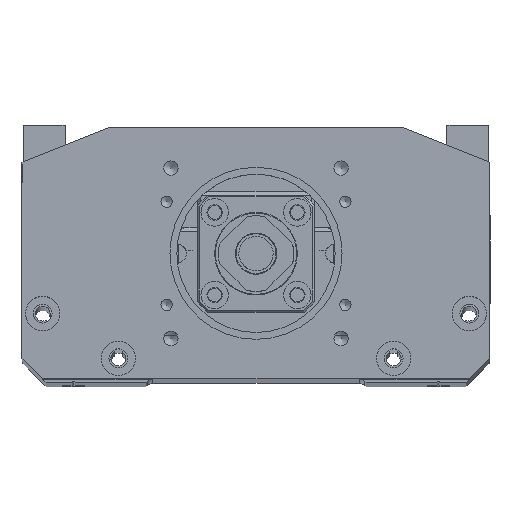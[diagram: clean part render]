
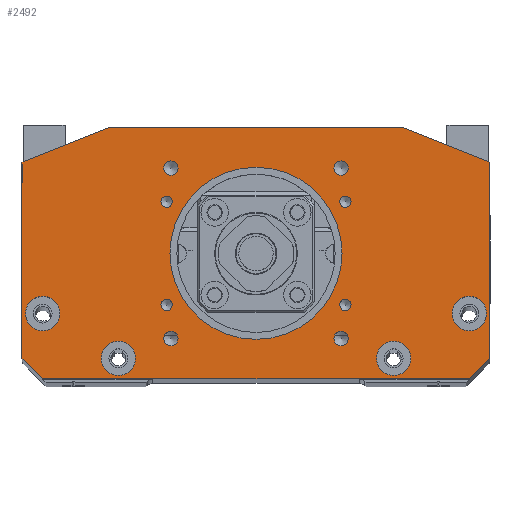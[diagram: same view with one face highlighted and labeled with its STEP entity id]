
A CAD part, top view. The second image highlights one B-rep face of the part: STEP entity #2492.
In plain terms, the highlighted planar face has unit normal (0, 0, 1).
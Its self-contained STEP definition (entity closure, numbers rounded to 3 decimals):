
#422=PLANE('',#15078);
#867=FACE_BOUND('',#4331,.T.);
#868=FACE_BOUND('',#4332,.T.);
#869=FACE_BOUND('',#4333,.T.);
#870=FACE_BOUND('',#4334,.T.);
#871=FACE_BOUND('',#4335,.T.);
#872=FACE_BOUND('',#4336,.T.);
#873=FACE_BOUND('',#4337,.T.);
#874=FACE_BOUND('',#4338,.T.);
#875=FACE_BOUND('',#4339,.T.);
#876=FACE_BOUND('',#4340,.T.);
#877=FACE_BOUND('',#4341,.T.);
#878=FACE_BOUND('',#4342,.T.);
#879=FACE_BOUND('',#4343,.T.);
#880=FACE_BOUND('',#4344,.T.);
#1786=CIRCLE('',#15065,1.65);
#1787=CIRCLE('',#15066,1.65);
#1788=CIRCLE('',#15067,1.65);
#1789=CIRCLE('',#15068,1.65);
#1790=CIRCLE('',#15069,2.1);
#1791=CIRCLE('',#15070,2.1);
#1792=CIRCLE('',#15071,2.1);
#1793=CIRCLE('',#15072,2.1);
#1794=CIRCLE('',#15073,25.);
#1795=CIRCLE('',#15074,5.);
#1796=CIRCLE('',#15075,5.);
#1797=CIRCLE('',#15076,5.);
#1798=CIRCLE('',#15077,5.);
#2492=ADVANCED_FACE('9',(#867,#868,#869,#870,#871,#872,#873,#874,#875,#876,
#877,#878,#879,#880),#422,.T.);
#4331=EDGE_LOOP('',(#7149));
#4332=EDGE_LOOP('',(#7150));
#4333=EDGE_LOOP('',(#7151));
#4334=EDGE_LOOP('',(#7152));
#4335=EDGE_LOOP('',(#7153));
#4336=EDGE_LOOP('',(#7154));
#4337=EDGE_LOOP('',(#7155));
#4338=EDGE_LOOP('',(#7156));
#4339=EDGE_LOOP('',(#7157));
#4340=EDGE_LOOP('',(#7158));
#4341=EDGE_LOOP('',(#7159));
#4342=EDGE_LOOP('',(#7160));
#4343=EDGE_LOOP('',(#7161));
#4344=EDGE_LOOP('',(#7162,#7163,#7164,#7165,#7166,#7167,#7168,#7169));
#7149=ORIENTED_EDGE('',*,*,#11610,.F.);
#7150=ORIENTED_EDGE('',*,*,#11611,.F.);
#7151=ORIENTED_EDGE('',*,*,#11612,.F.);
#7152=ORIENTED_EDGE('',*,*,#11613,.F.);
#7153=ORIENTED_EDGE('',*,*,#11614,.F.);
#7154=ORIENTED_EDGE('',*,*,#11615,.F.);
#7155=ORIENTED_EDGE('',*,*,#11616,.F.);
#7156=ORIENTED_EDGE('',*,*,#11617,.F.);
#7157=ORIENTED_EDGE('',*,*,#11618,.F.);
#7158=ORIENTED_EDGE('',*,*,#11619,.F.);
#7159=ORIENTED_EDGE('',*,*,#11620,.F.);
#7160=ORIENTED_EDGE('',*,*,#11621,.F.);
#7161=ORIENTED_EDGE('',*,*,#11622,.F.);
#7162=ORIENTED_EDGE('',*,*,#10731,.F.);
#7163=ORIENTED_EDGE('',*,*,#11580,.T.);
#7164=ORIENTED_EDGE('',*,*,#11623,.F.);
#7165=ORIENTED_EDGE('',*,*,#11583,.T.);
#7166=ORIENTED_EDGE('',*,*,#10650,.F.);
#7167=ORIENTED_EDGE('',*,*,#10691,.T.);
#7168=ORIENTED_EDGE('',*,*,#10706,.F.);
#7169=ORIENTED_EDGE('',*,*,#10720,.T.);
#9228=VERTEX_POINT('',#20829);
#9229=VERTEX_POINT('',#20831);
#9256=VERTEX_POINT('',#20907);
#9266=VERTEX_POINT('',#20935);
#9274=VERTEX_POINT('',#20960);
#9283=VERTEX_POINT('',#20982);
#9819=VERTEX_POINT('',#25187);
#9821=VERTEX_POINT('',#25193);
#9839=VERTEX_POINT('',#25250);
#9840=VERTEX_POINT('',#25252);
#9841=VERTEX_POINT('',#25254);
#9842=VERTEX_POINT('',#25256);
#9843=VERTEX_POINT('',#25258);
#9844=VERTEX_POINT('',#25260);
#9845=VERTEX_POINT('',#25262);
#9846=VERTEX_POINT('',#25264);
#9847=VERTEX_POINT('',#25266);
#9848=VERTEX_POINT('',#25268);
#9849=VERTEX_POINT('',#25270);
#9850=VERTEX_POINT('',#25272);
#9851=VERTEX_POINT('',#25274);
#10650=EDGE_CURVE('',#9228,#9229,#12392,.T.);
#10691=EDGE_CURVE('',#9228,#9256,#12423,.T.);
#10706=EDGE_CURVE('',#9266,#9256,#12436,.T.);
#10720=EDGE_CURVE('',#9266,#9274,#12448,.T.);
#10731=EDGE_CURVE('',#9283,#9274,#12457,.T.);
#11580=EDGE_CURVE('',#9283,#9819,#12890,.T.);
#11583=EDGE_CURVE('',#9821,#9229,#12893,.T.);
#11610=EDGE_CURVE('',#9839,#9839,#1786,.T.);
#11611=EDGE_CURVE('',#9840,#9840,#1787,.T.);
#11612=EDGE_CURVE('',#9841,#9841,#1788,.T.);
#11613=EDGE_CURVE('',#9842,#9842,#1789,.T.);
#11614=EDGE_CURVE('',#9843,#9843,#1790,.T.);
#11615=EDGE_CURVE('',#9844,#9844,#1791,.T.);
#11616=EDGE_CURVE('',#9845,#9845,#1792,.T.);
#11617=EDGE_CURVE('',#9846,#9846,#1793,.T.);
#11618=EDGE_CURVE('',#9847,#9847,#1794,.T.);
#11619=EDGE_CURVE('',#9848,#9848,#1795,.T.);
#11620=EDGE_CURVE('',#9849,#9849,#1796,.T.);
#11621=EDGE_CURVE('',#9850,#9850,#1797,.T.);
#11622=EDGE_CURVE('',#9851,#9851,#1798,.T.);
#11623=EDGE_CURVE('',#9821,#9819,#12907,.T.);
#12392=LINE('',#20830,#13371);
#12423=LINE('',#20908,#13402);
#12436=LINE('',#20936,#13415);
#12448=LINE('',#20961,#13427);
#12457=LINE('',#20983,#13436);
#12890=LINE('',#25186,#13869);
#12893=LINE('',#25192,#13872);
#12907=LINE('',#25275,#13886);
#13371=VECTOR('',#16229,1.);
#13402=VECTOR('',#16298,1.);
#13415=VECTOR('',#16321,1.);
#13427=VECTOR('',#16343,1.);
#13436=VECTOR('',#16360,1.);
#13869=VECTOR('',#18143,1.);
#13872=VECTOR('',#18148,1.);
#13886=VECTOR('',#18238,1.);
#15065=AXIS2_PLACEMENT_3D('',#25249,#18212,#18213);
#15066=AXIS2_PLACEMENT_3D('',#25251,#18214,#18215);
#15067=AXIS2_PLACEMENT_3D('',#25253,#18216,#18217);
#15068=AXIS2_PLACEMENT_3D('',#25255,#18218,#18219);
#15069=AXIS2_PLACEMENT_3D('',#25257,#18220,#18221);
#15070=AXIS2_PLACEMENT_3D('',#25259,#18222,#18223);
#15071=AXIS2_PLACEMENT_3D('',#25261,#18224,#18225);
#15072=AXIS2_PLACEMENT_3D('',#25263,#18226,#18227);
#15073=AXIS2_PLACEMENT_3D('',#25265,#18228,#18229);
#15074=AXIS2_PLACEMENT_3D('',#25267,#18230,#18231);
#15075=AXIS2_PLACEMENT_3D('',#25269,#18232,#18233);
#15076=AXIS2_PLACEMENT_3D('',#25271,#18234,#18235);
#15077=AXIS2_PLACEMENT_3D('',#25273,#18236,#18237);
#15078=AXIS2_PLACEMENT_3D('',#25276,#18239,#18240);
#16229=DIRECTION('',(0.,1.,0.));
#16298=DIRECTION('',(0.707,-0.707,0.));
#16321=DIRECTION('',(-1.,0.,0.));
#16343=DIRECTION('',(0.707,0.707,0.));
#16360=DIRECTION('',(0.,-1.,0.));
#18143=DIRECTION('',(-0.928,0.371,0.));
#18148=DIRECTION('',(-0.928,-0.371,0.));
#18212=DIRECTION('',(0.,0.,1.));
#18213=DIRECTION('',(1.,0.,0.));
#18214=DIRECTION('',(0.,0.,1.));
#18215=DIRECTION('',(1.,0.,0.));
#18216=DIRECTION('',(0.,0.,1.));
#18217=DIRECTION('',(1.,0.,0.));
#18218=DIRECTION('',(0.,0.,1.));
#18219=DIRECTION('',(1.,0.,0.));
#18220=DIRECTION('',(0.,0.,1.));
#18221=DIRECTION('',(1.,0.,0.));
#18222=DIRECTION('',(0.,0.,1.));
#18223=DIRECTION('',(1.,0.,0.));
#18224=DIRECTION('',(0.,0.,1.));
#18225=DIRECTION('',(1.,0.,0.));
#18226=DIRECTION('',(0.,0.,1.));
#18227=DIRECTION('',(1.,0.,0.));
#18228=DIRECTION('',(0.,0.,1.));
#18229=DIRECTION('',(1.,0.,0.));
#18230=DIRECTION('',(0.,0.,1.));
#18231=DIRECTION('',(1.,0.,0.));
#18232=DIRECTION('',(0.,0.,1.));
#18233=DIRECTION('',(1.,0.,0.));
#18234=DIRECTION('',(0.,0.,1.));
#18235=DIRECTION('',(1.,0.,0.));
#18236=DIRECTION('',(0.,0.,1.));
#18237=DIRECTION('',(1.,0.,0.));
#18238=DIRECTION('',(1.,0.,0.));
#18239=DIRECTION('',(0.,0.,1.));
#18240=DIRECTION('',(1.,0.,0.));
#20829=CARTESIAN_POINT('',(-68.,6.,180.));
#20830=CARTESIAN_POINT('',(-68.,0.,180.));
#20831=CARTESIAN_POINT('',(-68.,63.,180.));
#20907=CARTESIAN_POINT('',(-62.,0.,180.));
#20908=CARTESIAN_POINT('',(-49.25,-12.75,180.));
#20935=CARTESIAN_POINT('',(62.,0.,180.));
#20936=CARTESIAN_POINT('',(68.,0.,180.));
#20960=CARTESIAN_POINT('',(68.,6.,180.));
#20961=CARTESIAN_POINT('',(49.25,-12.75,180.));
#20982=CARTESIAN_POINT('',(68.,63.,180.));
#20983=CARTESIAN_POINT('',(68.,0.,180.));
#25186=CARTESIAN_POINT('',(18.517,82.793,180.));
#25187=CARTESIAN_POINT('',(43.,73.,180.));
#25192=CARTESIAN_POINT('',(-18.517,82.793,180.));
#25193=CARTESIAN_POINT('',(-43.,73.,180.));
#25249=CARTESIAN_POINT('',(25.981,51.5,180.));
#25250=CARTESIAN_POINT('',(27.631,51.5,180.));
#25251=CARTESIAN_POINT('',(25.981,21.5,180.));
#25252=CARTESIAN_POINT('',(27.631,21.5,180.));
#25253=CARTESIAN_POINT('',(-25.981,21.5,180.));
#25254=CARTESIAN_POINT('',(-24.331,21.5,180.));
#25255=CARTESIAN_POINT('',(-25.981,51.5,180.));
#25256=CARTESIAN_POINT('',(-24.331,51.5,180.));
#25257=CARTESIAN_POINT('',(-24.749,61.249,180.));
#25258=CARTESIAN_POINT('',(-22.649,61.249,180.));
#25259=CARTESIAN_POINT('',(24.749,61.249,180.));
#25260=CARTESIAN_POINT('',(26.849,61.249,180.));
#25261=CARTESIAN_POINT('',(24.749,11.751,180.));
#25262=CARTESIAN_POINT('',(26.849,11.751,180.));
#25263=CARTESIAN_POINT('',(-24.749,11.751,180.));
#25264=CARTESIAN_POINT('',(-22.649,11.751,180.));
#25265=CARTESIAN_POINT('',(0.,36.5,180.));
#25266=CARTESIAN_POINT('',(25.,36.5,180.));
#25267=CARTESIAN_POINT('',(-62.,19.,180.));
#25268=CARTESIAN_POINT('',(-57.,19.,180.));
#25269=CARTESIAN_POINT('',(62.,19.,180.));
#25270=CARTESIAN_POINT('',(67.,19.,180.));
#25271=CARTESIAN_POINT('',(-40.,6.,180.));
#25272=CARTESIAN_POINT('',(-35.,6.,180.));
#25273=CARTESIAN_POINT('',(40.,6.,180.));
#25274=CARTESIAN_POINT('',(45.,6.,180.));
#25275=CARTESIAN_POINT('',(68.,73.,180.));
#25276=CARTESIAN_POINT('',(0.,36.5,180.));
